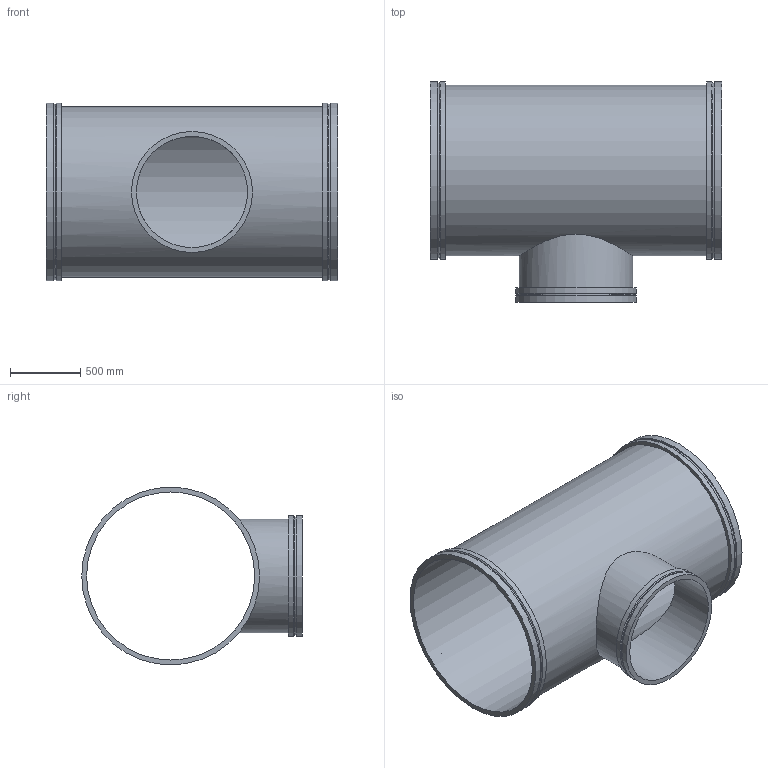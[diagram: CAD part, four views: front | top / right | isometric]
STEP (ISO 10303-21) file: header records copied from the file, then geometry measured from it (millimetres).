
FILE_DESCRIPTION(/* description */ ('VIC REDUCING TEE No W025 VR','CAx-IF Rec.Pracs.---Representation and Presentation of Product Manufacturing Information (PMI)---4.0---2014-10-13'),/* implementation_level */ '2;1');
FILE_NAME(/* name */ 'C:\Users\kkamble\AppData\Roaming\Autodesk\ApplicationPlugins\Back Up\Victaulic_Vic-Ring_Tee Reducing_No W25 VR (AGR)\Victaulic_Vic-Ring_Tee Reducing_No W25 VR (AGR)_48.0x32.0 (1200x800).stp',/* time_stamp */ '2020-09-10T11:57:14+05:00',/* author */ ('mchristi'),/* organization */ ('Victaulic'),/* preprocessor_version */ 'ST-DEVELOPER v17.2',/* originating_system */ 'Autodesk Inventor 2019',/* authorisation */ '');
FILE_SCHEMA (('AP242_MANAGED_MODEL_BASED_3D_ENGINEERING_MIM_LF { 1 0 10303 442 1 1 4 }'));
Length unit declared in the file: inch
Products named in the file (1): W25 VR-48.0x32.0
Bounding box: 2082.8 x 1574.8 x 1270 mm (x, y, z)
Volume: 106942119.2 mm3; surface area: 17606971.5 mm2
Topology: 1 solids, 1 shells, 25 faces, 68 edges, 52 vertices
Faces by surface type: cylinder 13, plane 9, cone 3
Full cylindrical faces by diameter (mm): 793.75 x1, 812.8 x1, 849.122 x1, 863.6 x2, 1200.15 x1, 1219.2 x1, 1254.125 x2, 1270 x4
Entity records: 1267 total; most frequent: CARTESIAN_POINT 423, DIRECTION 190, ORIENTED_EDGE 136, AXIS2_PLACEMENT_3D 87, EDGE_CURVE 68, VERTEX_POINT 52, CIRCLE 48, EDGE_LOOP 36
